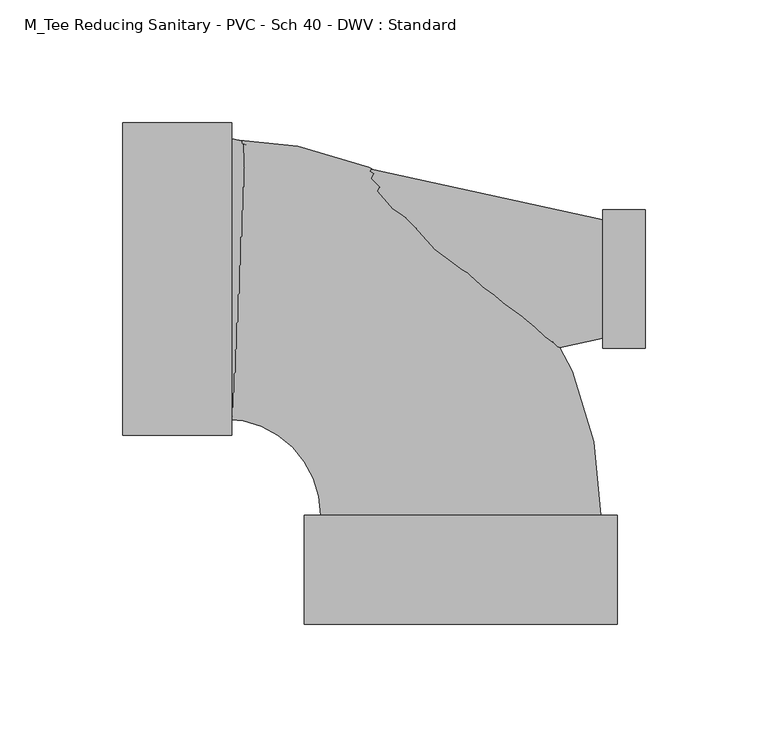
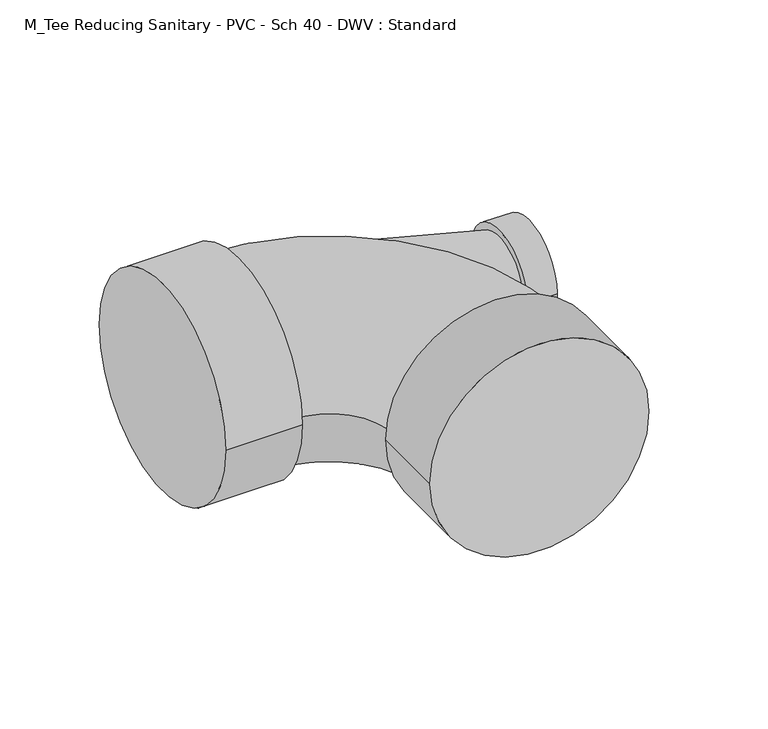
"""IFC4 building model written with IfcOpenShell, lengths in millimetres: pipe fitting geometry, M_Tee Reducing Sanitary - PVC - Sch 40 - DWV : Standard."""

from ifc_helpers import new_model, si_unit, point, frame, origin, place, context, project, spatial, polyline, circle_curve, ellipse_curve, trimmed, source, transform, mapped, element, save
from ifc_brep_helpers import plane_surface, cylinder_surface, revolved_surface, advanced_brep


def m_tee_reducing_sanitary_pvc_sch_40_dwv_standard_6f77613a(model_context):
    return source(origin(), model_context, "Body", "AdvancedBrep", [
        advanced_brep(
        [(57.822125, -28.2829, 0.0), (57.822125, 28.2829, 0.0), (57.822125, -24.13, 0.0), (57.822125, 24.13, 0.0), (75.271925, -28.2829, 0.0), (75.271925, 28.2829, 0.0), (-93.4599062, 57.15, 0.0), (-93.4599062, -57.15, 0.0), (-137.9099062, -63.754, 0.0), (-137.9099062, 63.754, 0.0), (-93.4599062, -63.754, 0.0), (-93.4599062, 63.754, 0.0)],
        [
            (0, 1, circle_curve(frame((57.822125, 0.0, 0.0), z_axis=(-1.0, 0.0, 0.0), x_axis=(0.0, 1.0, 0.0)), 28.2829)),
            (1, 0, circle_curve(frame((57.822125, 0.0, 0.0), z_axis=(-1.0, 0.0, 0.0), x_axis=(0.0, 1.0, 0.0)), 28.2829)),
            (2, 3, circle_curve(frame((57.822125, 0.0, 0.0), z_axis=(1.0, 0.0, 0.0), x_axis=(0.0, -1.0, 0.0)), 24.13)),
            (3, 2, circle_curve(frame((57.822125, 0.0, 0.0), z_axis=(1.0, 0.0, 0.0), x_axis=(0.0, 1.0, 0.0)), 24.13)),
            (4, 5, circle_curve(frame((75.271925, 0.0, 0.0), z_axis=(1.0, 0.0, 0.0), x_axis=(0.0, 1.0, 0.0)), 28.2829)),
            (5, 4, circle_curve(frame((75.271925, 0.0, 0.0), z_axis=(1.0, 0.0, 0.0), x_axis=(0.0, 1.0, 0.0)), 28.2829)),
            (0, 4),
            (5, 1),
            (6, 3),
            (2, 7),
            (7, 6, circle_curve(frame((-93.4599062, 0.0, 0.0), z_axis=(1.0, 0.0, 0.0), x_axis=(0.0, -1.0, 0.0)), 57.15)),
            (6, 7, circle_curve(frame((-93.4599062, 0.0, 0.0), z_axis=(1.0, 0.0, 0.0), x_axis=(0.0, 1.0, 0.0)), 57.15)),
            (8, 9, circle_curve(frame((-137.9099062, 0.0, 0.0), z_axis=(-1.0, 0.0, 0.0), x_axis=(0.0, 1.0, 0.0)), 63.754)),
            (9, 8, circle_curve(frame((-137.9099062, 0.0, 0.0), z_axis=(-1.0, 0.0, 0.0), x_axis=(0.0, 1.0, 0.0)), 63.754)),
            (10, 11, circle_curve(frame((-93.4599062, 0.0, 0.0), z_axis=(1.0, 0.0, 0.0), x_axis=(0.0, 1.0, 0.0)), 63.754)),
            (11, 10, circle_curve(frame((-93.4599062, 0.0, 0.0), z_axis=(1.0, 0.0, 0.0), x_axis=(0.0, 1.0, 0.0)), 63.754)),
            (8, 10),
            (11, 9),
        ],
        [
            plane_surface(frame((57.822125, 0.0, 0.0), z_axis=(-1.0, 0.0, 0.0), x_axis=(0.0, 0.0, 1.0))),
            plane_surface(frame((75.271925, 0.0, 0.0), z_axis=(1.0, 0.0, 0.0), x_axis=(0.0, 0.0, 1.0))),
            cylinder_surface(frame((57.822125, 0.0, 0.0), z_axis=(-1.0, 0.0, 0.0), x_axis=(0.0, 1.0, 0.0)), 28.2829),
            revolved_surface(polyline([(57.822125, 24.130000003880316, 0.0), (-93.45990619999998, 57.15, 0.0)]), (168.3743786, 0.0, 0.0), (-1.0, 0.0, 0.0)),
            plane_surface(frame((-137.9099062, 0.0, 0.0), z_axis=(-1.0, 0.0, 0.0), x_axis=(0.0, 0.0, 1.0))),
            plane_surface(frame((-93.4599062, 0.0, 0.0), z_axis=(1.0, 0.0, 0.0), x_axis=(0.0, 0.0, 1.0))),
            cylinder_surface(frame((-137.9099062, 0.0, 0.0), z_axis=(-1.0, 0.0, 0.0), x_axis=(0.0, 1.0, 0.0)), 63.754),
        ],
        [
            (0, [[1, 2], [3, 4]]),
            (1, [[5, 6]]),
            (2, [[-1, 7, -6, 8]]),
            (2, [[-2, -8, -5, -7]]),
            (3, [[9, -3, 10, 11]]),
            (3, [[-9, 12, -10, -4]]),
            (4, [[13, 14]]),
            (5, [[15, 16], [-11, -12]]),
            (6, [[-13, 17, -16, 18]]),
            (6, [[-14, -18, -15, -17]]),
        ],
    ),
        advanced_brep(
        [(-63.754, -96.3476563, 0.0), (63.754, -96.3476563, 0.0), (57.15, -96.3476563, 0.0), (-57.15, -96.3476563, 0.0), (-63.754, -140.7976563, 0.0), (63.754, -140.7976563, 0.0), (-96.3476562, -57.15, 0.0), (-96.3476562, 57.15, 0.0)],
        [
            (0, 1, circle_curve(frame((0.0, -96.3476563, 0.0), z_axis=(0.0, 1.0, 0.0), x_axis=(1.0, 0.0, 0.0)), 63.754)),
            (1, 0, circle_curve(frame((0.0, -96.3476563, 0.0), z_axis=(0.0, 1.0, 0.0), x_axis=(1.0, 0.0, 0.0)), 63.754)),
            (2, 3, circle_curve(frame((0.0, -96.3476563, 0.0), z_axis=(0.0, -1.0, 0.0), x_axis=(1.0, 0.0, 0.0)), 57.15)),
            (3, 2, circle_curve(frame((0.0, -96.3476563, 0.0), z_axis=(0.0, -1.0, 0.0), x_axis=(1.0, 0.0, 0.0)), 57.15)),
            (4, 5, circle_curve(frame((0.0, -140.7976563, 0.0), z_axis=(0.0, -1.0, 0.0), x_axis=(1.0, 0.0, 0.0)), 63.754)),
            (5, 4, circle_curve(frame((0.0, -140.7976563, 0.0), z_axis=(0.0, -1.0, 0.0), x_axis=(1.0, 0.0, 0.0)), 63.754)),
            (0, 4),
            (5, 1),
            (6, 7, circle_curve(frame((-96.3476562, 0.0, 0.0), z_axis=(-1.0, 0.0, 0.0), x_axis=(0.0, 1.0, 0.0)), 57.15)),
            (7, 6, circle_curve(frame((-96.3476562, 0.0, 0.0), z_axis=(-1.0, 0.0, 0.0), x_axis=(0.0, 1.0, 0.0)), 57.15)),
            (6, 3, circle_curve(frame((-96.3476562, -96.3476563, 0.0), z_axis=(0.0, 0.0, -1.0), x_axis=(0.0, 1.0, 0.0)), 39.1976563)),
            (2, 7, circle_curve(frame((-96.3476562, -96.3476563, 0.0), z_axis=(0.0, 0.0, 1.0), x_axis=(0.0, 1.0, 0.0)), 153.4976563)),
        ],
        [
            plane_surface(frame((0.0, -96.3476563, 0.0), z_axis=(0.0, 1.0, 0.0), x_axis=(0.0, 0.0, 1.0))),
            plane_surface(frame((0.0, -140.7976563, 0.0), z_axis=(0.0, -1.0, 0.0), x_axis=(0.0, 0.0, 1.0))),
            cylinder_surface(frame((0.0, -96.3476563, 0.0), z_axis=(0.0, 1.0, 0.0), x_axis=(1.0, 0.0, 0.0)), 63.754),
            plane_surface(frame((-96.3476562, 0.0, 0.0), z_axis=(-1.0, 0.0, 0.0), x_axis=(0.0, 0.0, 1.0))),
            revolved_surface(trimmed(ellipse_curve(frame((-96.3476562, 0.0, 0.0), z_axis=(-1.0, 0.0, 0.0), x_axis=(0.0, 1.0, 0.0)), 57.15, 57.15), [point((-96.3476562, -57.15, 0.0))], [point((-96.3476562, 57.15, 0.0))], True, "CARTESIAN"), (-96.3476562, -96.3476563, 0.0), (0.0, 0.0, -1.0)),
            revolved_surface(trimmed(ellipse_curve(frame((-96.3476562, 0.0, 0.0), z_axis=(-1.0, 0.0, 0.0), x_axis=(0.0, 1.0, 0.0)), 57.15, 57.15), [point((-96.3476562, 57.15, 0.0))], [point((-96.3476562, -57.15, 0.0))], True, "CARTESIAN"), (-96.3476562, -96.3476563, 0.0), (0.0, 0.0, -1.0)),
        ],
        [
            (0, [[1, 2], [3, 4]]),
            (1, [[5, 6]]),
            (2, [[-1, 7, -6, 8]]),
            (2, [[-2, -8, -5, -7]]),
            (3, [[9, 10]]),
            (4, [[-9, 11, -3, 12]]),
            (5, [[-10, -12, -4, -11]]),
        ],
    ),
    ])


if __name__ == "__main__":
    model = new_model("IFC4")
    model_context = context("Model", 3, world=origin())
    ifc_project = project(units=[si_unit("LENGTHUNIT", "METRE", prefix="MILLI")], contexts=[model_context])
    site = spatial("IfcSite", under=ifc_project)
    building = spatial("IfcBuilding", under=site)
    placement = place(None, origin())
    m_tee_reducing_sanitary_pvc_sch_40_dwv_standard_shape = m_tee_reducing_sanitary_pvc_sch_40_dwv_standard_6f77613a(model_context)
    element("IfcPipeFitting", 1, ObjectType="M_Tee Reducing Sanitary - PVC - Sch 40 - DWV : Standard", at=placement, inside=building, context=model_context, shape_type="MappedRepresentation", body=[
        mapped(m_tee_reducing_sanitary_pvc_sch_40_dwv_standard_shape, transform((0.0, 0.0, 0.0), x_axis=(1.0, 0.0, 0.0), y_axis=(0.0, 1.0, 0.0), z_axis=(0.0, 0.0, 1.0))),
    ])
    save(model, "model.ifc")
